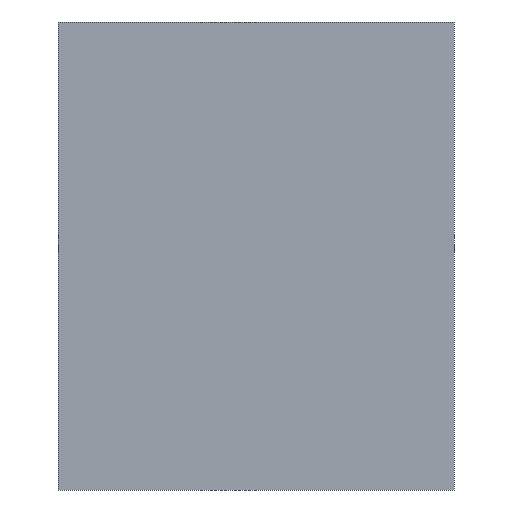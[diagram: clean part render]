
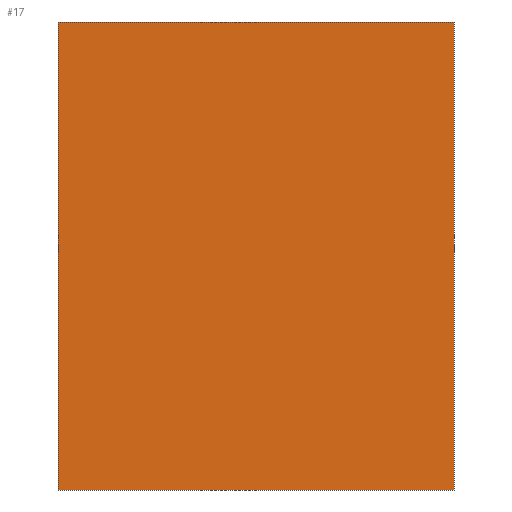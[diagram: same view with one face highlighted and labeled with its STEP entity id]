
A CAD part, left-side view. The second image highlights one B-rep face of the part: STEP entity #17.
In plain terms, the highlighted planar face has unit normal (-1, 0, 0).
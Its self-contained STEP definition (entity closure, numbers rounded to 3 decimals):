
#17 = ADVANCED_FACE('',(#18),#32,.T.);
#18 = FACE_BOUND('',#19,.T.);
#19 = EDGE_LOOP('',(#20,#55,#83,#111));
#20 = ORIENTED_EDGE('',*,*,#21,.T.);
#21 = EDGE_CURVE('',#22,#24,#26,.T.);
#22 = VERTEX_POINT('',#23);
#23 = CARTESIAN_POINT('',(-3.5,-5.5,6.5));
#24 = VERTEX_POINT('',#25);
#25 = CARTESIAN_POINT('',(-3.5,5.5,6.5));
#26 = SURFACE_CURVE('',#27,(#31,#43),.PCURVE_S1.);
#27 = LINE('',#28,#29);
#28 = CARTESIAN_POINT('',(-3.5,-5.5,6.5));
#29 = VECTOR('',#30,1.);
#30 = DIRECTION('',(0.,1.,0.));
#31 = PCURVE('',#32,#37);
#32 = PLANE('',#33);
#33 = AXIS2_PLACEMENT_3D('',#34,#35,#36);
#34 = CARTESIAN_POINT('',(-3.5,-5.5,6.5));
#35 = DIRECTION('',(-1.,0.,0.));
#36 = DIRECTION('',(0.,0.,-1.));
#37 = DEFINITIONAL_REPRESENTATION('',(#38),#42);
#38 = LINE('',#39,#40);
#39 = CARTESIAN_POINT('',(0.,-0.));
#40 = VECTOR('',#41,1.);
#41 = DIRECTION('',(0.,-1.));
#42 = ( GEOMETRIC_REPRESENTATION_CONTEXT(2) 
PARAMETRIC_REPRESENTATION_CONTEXT() REPRESENTATION_CONTEXT('2D SPACE',''
  ) );
#43 = PCURVE('',#44,#49);
#44 = PLANE('',#45);
#45 = AXIS2_PLACEMENT_3D('',#46,#47,#48);
#46 = CARTESIAN_POINT('',(-3.5,-5.5,6.5));
#47 = DIRECTION('',(0.,0.,1.));
#48 = DIRECTION('',(1.,0.,-0.));
#49 = DEFINITIONAL_REPRESENTATION('',(#50),#54);
#50 = LINE('',#51,#52);
#51 = CARTESIAN_POINT('',(0.,0.));
#52 = VECTOR('',#53,1.);
#53 = DIRECTION('',(0.,1.));
#54 = ( GEOMETRIC_REPRESENTATION_CONTEXT(2) 
PARAMETRIC_REPRESENTATION_CONTEXT() REPRESENTATION_CONTEXT('2D SPACE',''
  ) );
#55 = ORIENTED_EDGE('',*,*,#56,.F.);
#56 = EDGE_CURVE('',#57,#24,#59,.T.);
#57 = VERTEX_POINT('',#58);
#58 = CARTESIAN_POINT('',(-3.5,5.5,-6.5));
#59 = SURFACE_CURVE('',#60,(#64,#71),.PCURVE_S1.);
#60 = LINE('',#61,#62);
#61 = CARTESIAN_POINT('',(-3.5,5.5,-6.5));
#62 = VECTOR('',#63,1.);
#63 = DIRECTION('',(0.,0.,1.));
#64 = PCURVE('',#32,#65);
#65 = DEFINITIONAL_REPRESENTATION('',(#66),#70);
#66 = LINE('',#67,#68);
#67 = CARTESIAN_POINT('',(13.,-11.));
#68 = VECTOR('',#69,1.);
#69 = DIRECTION('',(-1.,-0.));
#70 = ( GEOMETRIC_REPRESENTATION_CONTEXT(2) 
PARAMETRIC_REPRESENTATION_CONTEXT() REPRESENTATION_CONTEXT('2D SPACE',''
  ) );
#71 = PCURVE('',#72,#77);
#72 = PLANE('',#73);
#73 = AXIS2_PLACEMENT_3D('',#74,#75,#76);
#74 = CARTESIAN_POINT('',(-3.5,5.5,6.5));
#75 = DIRECTION('',(-0.,1.,0.));
#76 = DIRECTION('',(0.,0.,1.));
#77 = DEFINITIONAL_REPRESENTATION('',(#78),#82);
#78 = LINE('',#79,#80);
#79 = CARTESIAN_POINT('',(-13.,0.));
#80 = VECTOR('',#81,1.);
#81 = DIRECTION('',(1.,0.));
#82 = ( GEOMETRIC_REPRESENTATION_CONTEXT(2) 
PARAMETRIC_REPRESENTATION_CONTEXT() REPRESENTATION_CONTEXT('2D SPACE',''
  ) );
#83 = ORIENTED_EDGE('',*,*,#84,.F.);
#84 = EDGE_CURVE('',#85,#57,#87,.T.);
#85 = VERTEX_POINT('',#86);
#86 = CARTESIAN_POINT('',(-3.5,-5.5,-6.5));
#87 = SURFACE_CURVE('',#88,(#92,#99),.PCURVE_S1.);
#88 = LINE('',#89,#90);
#89 = CARTESIAN_POINT('',(-3.5,-5.5,-6.5));
#90 = VECTOR('',#91,1.);
#91 = DIRECTION('',(0.,1.,0.));
#92 = PCURVE('',#32,#93);
#93 = DEFINITIONAL_REPRESENTATION('',(#94),#98);
#94 = LINE('',#95,#96);
#95 = CARTESIAN_POINT('',(13.,0.));
#96 = VECTOR('',#97,1.);
#97 = DIRECTION('',(0.,-1.));
#98 = ( GEOMETRIC_REPRESENTATION_CONTEXT(2) 
PARAMETRIC_REPRESENTATION_CONTEXT() REPRESENTATION_CONTEXT('2D SPACE',''
  ) );
#99 = PCURVE('',#100,#105);
#100 = PLANE('',#101);
#101 = AXIS2_PLACEMENT_3D('',#102,#103,#104);
#102 = CARTESIAN_POINT('',(-3.5,5.5,-6.5));
#103 = DIRECTION('',(0.,0.,-1.));
#104 = DIRECTION('',(-1.,0.,-0.));
#105 = DEFINITIONAL_REPRESENTATION('',(#106),#110);
#106 = LINE('',#107,#108);
#107 = CARTESIAN_POINT('',(-0.,-11.));
#108 = VECTOR('',#109,1.);
#109 = DIRECTION('',(0.,1.));
#110 = ( GEOMETRIC_REPRESENTATION_CONTEXT(2) 
PARAMETRIC_REPRESENTATION_CONTEXT() REPRESENTATION_CONTEXT('2D SPACE',''
  ) );
#111 = ORIENTED_EDGE('',*,*,#112,.T.);
#112 = EDGE_CURVE('',#85,#22,#113,.T.);
#113 = SURFACE_CURVE('',#114,(#118,#125),.PCURVE_S1.);
#114 = LINE('',#115,#116);
#115 = CARTESIAN_POINT('',(-3.5,-5.5,-6.5));
#116 = VECTOR('',#117,1.);
#117 = DIRECTION('',(0.,0.,1.));
#118 = PCURVE('',#32,#119);
#119 = DEFINITIONAL_REPRESENTATION('',(#120),#124);
#120 = LINE('',#121,#122);
#121 = CARTESIAN_POINT('',(13.,0.));
#122 = VECTOR('',#123,1.);
#123 = DIRECTION('',(-1.,-0.));
#124 = ( GEOMETRIC_REPRESENTATION_CONTEXT(2) 
PARAMETRIC_REPRESENTATION_CONTEXT() REPRESENTATION_CONTEXT('2D SPACE',''
  ) );
#125 = PCURVE('',#126,#131);
#126 = PLANE('',#127);
#127 = AXIS2_PLACEMENT_3D('',#128,#129,#130);
#128 = CARTESIAN_POINT('',(3.5,-5.5,-6.5));
#129 = DIRECTION('',(0.,-1.,0.));
#130 = DIRECTION('',(0.,-0.,-1.));
#131 = DEFINITIONAL_REPRESENTATION('',(#132),#136);
#132 = LINE('',#133,#134);
#133 = CARTESIAN_POINT('',(-0.,-7.));
#134 = VECTOR('',#135,1.);
#135 = DIRECTION('',(-1.,0.));
#136 = ( GEOMETRIC_REPRESENTATION_CONTEXT(2) 
PARAMETRIC_REPRESENTATION_CONTEXT() REPRESENTATION_CONTEXT('2D SPACE',''
  ) );
